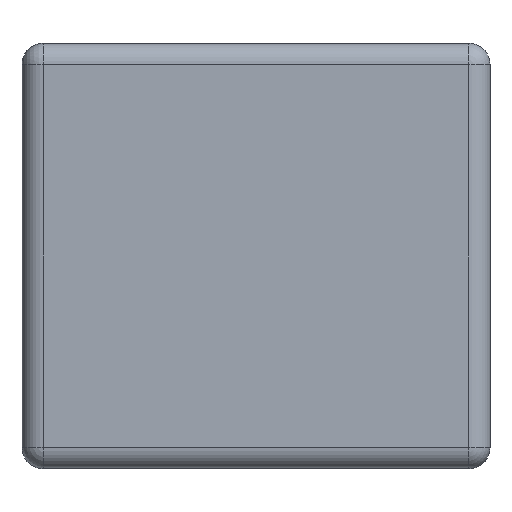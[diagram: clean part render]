
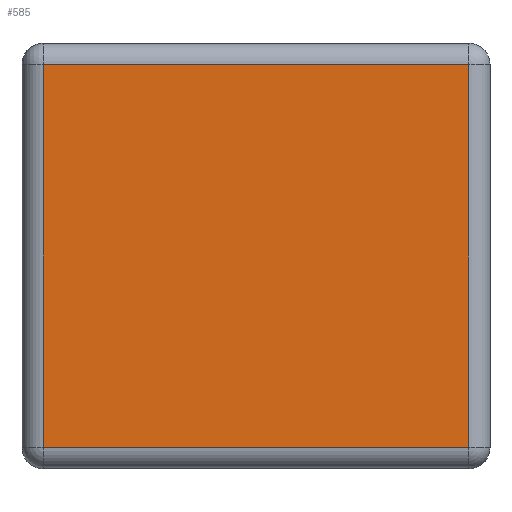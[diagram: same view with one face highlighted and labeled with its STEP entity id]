
A CAD part, left-side view. The second image highlights one B-rep face of the part: STEP entity #585.
In plain terms, the highlighted planar face has unit normal (-1, 0, 0).
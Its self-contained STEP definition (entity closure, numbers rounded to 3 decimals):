
#3 = VERTEX_POINT ( 'NONE', #520 ) ;
#4 = LINE ( 'NONE', #919, #1460 ) ;
#26 = CARTESIAN_POINT ( 'NONE',  ( -0.5, 0.025, -0.225 ) ) ;
#64 = ORIENTED_EDGE ( 'NONE', *, *, #1027, .T. ) ;
#133 = CARTESIAN_POINT ( 'NONE',  ( -0.5, 0.55, -0.225 ) ) ;
#168 = ORIENTED_EDGE ( 'NONE', *, *, #449, .T. ) ;
#217 = EDGE_CURVE ( 'NONE', #1264, #674, #479, .T. ) ;
#224 = DIRECTION ( 'NONE',  ( 1., 0., 0. ) ) ;
#240 = CARTESIAN_POINT ( 'NONE',  ( -0.5, 0.55, 0.25 ) ) ;
#347 = AXIS2_PLACEMENT_3D ( 'NONE', #240, #224, #1014 ) ;
#361 = DIRECTION ( 'NONE',  ( 0., -1., 0. ) ) ;
#381 = CARTESIAN_POINT ( 'NONE',  ( -0.5, 0.025, 0.225 ) ) ;
#393 = VERTEX_POINT ( 'NONE', #381 ) ;
#412 = LINE ( 'NONE', #750, #708 ) ;
#449 = EDGE_CURVE ( 'NONE', #674, #393, #412, .T. ) ;
#459 = FACE_OUTER_BOUND ( 'NONE', #727, .T. ) ;
#479 = LINE ( 'NONE', #133, #852 ) ;
#520 = CARTESIAN_POINT ( 'NONE',  ( -0.5, 0.525, 0.225 ) ) ;
#585 = ADVANCED_FACE ( 'NONE', ( #459 ), #680, .F. ) ;
#632 = DIRECTION ( 'NONE',  ( 0., 0., 1. ) ) ;
#674 = VERTEX_POINT ( 'NONE', #26 ) ;
#680 = PLANE ( 'NONE',  #347 ) ;
#692 = VECTOR ( 'NONE', #1294, 1000. ) ;
#708 = VECTOR ( 'NONE', #632, 1000. ) ;
#727 = EDGE_LOOP ( 'NONE', ( #1254, #974, #168, #64 ) ) ;
#750 = CARTESIAN_POINT ( 'NONE',  ( -0.5, 0.025, 0.25 ) ) ;
#784 = DIRECTION ( 'NONE',  ( 0., 0., -1. ) ) ;
#852 = VECTOR ( 'NONE', #361, 1000. ) ;
#919 = CARTESIAN_POINT ( 'NONE',  ( -0.5, 0.525, 0.25 ) ) ;
#920 = EDGE_CURVE ( 'NONE', #3, #1264, #4, .T. ) ;
#957 = LINE ( 'NONE', #1173, #692 ) ;
#974 = ORIENTED_EDGE ( 'NONE', *, *, #217, .T. ) ;
#1014 = DIRECTION ( 'NONE',  ( 0., 0., -1. ) ) ;
#1027 = EDGE_CURVE ( 'NONE', #393, #3, #957, .T. ) ;
#1173 = CARTESIAN_POINT ( 'NONE',  ( -0.5, 0.55, 0.225 ) ) ;
#1202 = CARTESIAN_POINT ( 'NONE',  ( -0.5, 0.525, -0.225 ) ) ;
#1254 = ORIENTED_EDGE ( 'NONE', *, *, #920, .T. ) ;
#1264 = VERTEX_POINT ( 'NONE', #1202 ) ;
#1294 = DIRECTION ( 'NONE',  ( 0., 1., 0. ) ) ;
#1460 = VECTOR ( 'NONE', #784, 1000. ) ;
